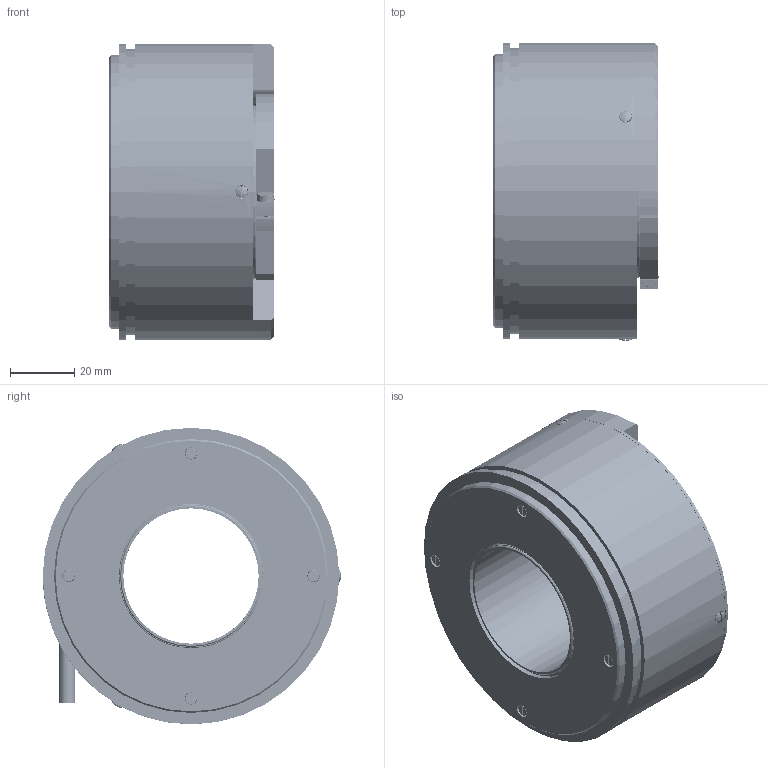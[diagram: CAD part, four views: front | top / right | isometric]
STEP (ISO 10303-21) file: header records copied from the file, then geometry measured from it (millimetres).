
FILE_DESCRIPTION (( 'STEP AP214' ), '1' );
FILE_NAME ('ËÈÐ-392À_ èñï. 3.STEP', '2017-05-23T10:12:36', ( '' ), ( '' ), 'SwSTEP 2.0', 'SolidWorks 2013', '' );
FILE_SCHEMA (( 'AUTOMOTIVE_DESIGN' ));
Length unit declared in the file: millimetre
Products named in the file (1): ËÈÐ-392À_ èñï. 3
Bounding box: 51.25 x 92.63 x 92 mm (x, y, z)
Volume: 140575.7 mm3; surface area: 132733.3 mm2
Topology: 43 solids, 43 shells, 3285 faces, 8644 edges, 5355 vertices
Faces by surface type: cone 1172, cylinder 902, bspline 764, plane 447
Entity records: 176389 total; most frequent: CARTESIAN_POINT 63177, ORIENTED_EDGE 17272, DIRECTION 15086, EDGE_CURVE 8636, AXIS2_PLACEMENT_3D 6378, VERTEX_POINT 5355, CIRCLE 3856, EDGE_LOOP 3581
